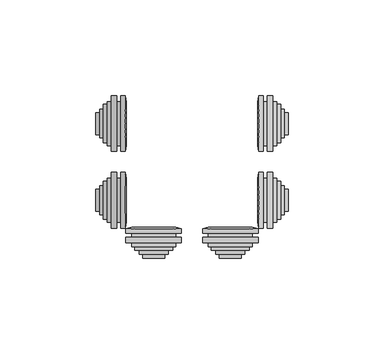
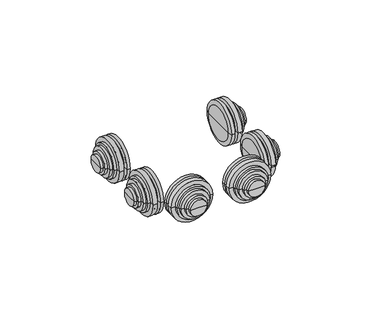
"""IFC4 building model written with IfcOpenShell, lengths in millimetres: cable carrier fitting geometry, КНС_КоробкаОтветвительнаяСКабельнымиВводами_8+2_IP55_DKC : с 8+2 кабельными вводами д.25/20 мм, IP55,100х100х50 мм."""

from ifc_helpers import new_model, si_unit, frame, origin, place, context, project, spatial, polyline, circle_curve, source, transform, mapped, element, save
from ifc_brep_helpers import plane_surface, cylinder_surface, revolved_surface, advanced_brep


def cable_carrier_fitting_1dd96824(model_context):
    return source(origin(), model_context, "Body", "AdvancedBrep", [
        advanced_brep(
        [(-37.2, -31.5, 15.9), (-37.2, -8.5, 15.9), (-37.2, -5.5, 15.9), (-37.2, -34.5, 15.9), (-39.2, -31.5, 15.9), (-39.2, -8.5, 15.9), (-39.2, -34.5, 15.9), (-39.2, -5.5, 15.9), (-42.2, -34.5, 15.9), (-42.2, -5.5, 15.9), (-42.2, -31.5, 15.9), (-42.2, -8.5, 15.9), (-44.2, -31.5, 15.9), (-44.2, -8.5, 15.9), (-44.2, -30.0, 15.9), (-44.2, -10.0, 15.9), (-46.2, -30.0, 15.9), (-46.2, -10.0, 15.9), (-46.2, -27.5, 15.9), (-46.2, -12.5, 15.9), (-48.2, -27.5, 15.9), (-48.2, -12.5, 15.9), (-48.2, -25.75, 15.9), (-48.2, -14.25, 15.9), (-50.2, -25.75, 15.9), (-50.2, -14.25, 15.9), (-50.2, -20.0, 15.9), (-34.2, -31.5, 15.9), (-34.2, -8.5, 15.9), (-34.2, -20.0, 15.9), (-34.9491137, -34.5, 15.9), (-34.9491137, -5.5, 15.9)],
        [
            (0, 1, circle_curve(frame((-37.2, -20.0, 15.9), z_axis=(1.0, 0.0, 0.0), x_axis=(0.0, 1.0000000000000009, 0.0)), 11.5)),
            (1, 2),
            (2, 3, circle_curve(frame((-37.2, -20.0, 15.9), z_axis=(-1.0, 0.0, 0.0), x_axis=(0.0, 1.0000000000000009, 0.0)), 14.5)),
            (3, 0),
            (1, 0, circle_curve(frame((-37.2, -20.0, 15.9), z_axis=(1.0, 0.0, 0.0), x_axis=(0.0, 1.0000000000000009, 0.0)), 11.5)),
            (3, 2, circle_curve(frame((-37.2, -20.0, 15.9), z_axis=(-1.0, 0.0, 0.0), x_axis=(0.0, 1.0000000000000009, 0.0)), 14.5)),
            (4, 5, circle_curve(frame((-39.2, -20.0, 15.9), z_axis=(1.0, 0.0, 0.0), x_axis=(0.0, 1.0000000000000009, 0.0)), 11.5)),
            (5, 1),
            (0, 4),
            (5, 4, circle_curve(frame((-39.2, -20.0, 15.9), z_axis=(1.0, 0.0, 0.0), x_axis=(0.0, 1.0000000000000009, 0.0)), 11.5)),
            (6, 7, circle_curve(frame((-39.2, -20.0, 15.9), z_axis=(1.0, 0.0, 0.0), x_axis=(0.0, 1.0000000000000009, 0.0)), 14.5)),
            (7, 5),
            (4, 6),
            (7, 6, circle_curve(frame((-39.2, -20.0, 15.9), z_axis=(1.0, 0.0, 0.0), x_axis=(0.0, 1.0000000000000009, 0.0)), 14.5)),
            (8, 9, circle_curve(frame((-42.2, -20.0, 15.9), z_axis=(1.0, 0.0, 0.0), x_axis=(0.0, 1.0000000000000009, 0.0)), 14.5)),
            (9, 7),
            (6, 8),
            (9, 8, circle_curve(frame((-42.2, -20.0, 15.9), z_axis=(1.0, 0.0, 0.0), x_axis=(0.0, 1.0000000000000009, 0.0)), 14.5)),
            (10, 11, circle_curve(frame((-42.2, -20.0, 15.9), z_axis=(1.0, 0.0, 0.0), x_axis=(0.0, 1.0000000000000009, 0.0)), 11.5)),
            (11, 9),
            (8, 10),
            (11, 10, circle_curve(frame((-42.2, -20.0, 15.9), z_axis=(1.0, 0.0, 0.0), x_axis=(0.0, 1.0000000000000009, 0.0)), 11.5)),
            (12, 13, circle_curve(frame((-44.2, -20.0, 15.9), z_axis=(1.0, 0.0, 0.0), x_axis=(0.0, 1.0000000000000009, 0.0)), 11.5)),
            (13, 11),
            (10, 12),
            (13, 12, circle_curve(frame((-44.2, -20.0, 15.9), z_axis=(1.0, 0.0, 0.0), x_axis=(0.0, 1.0000000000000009, 0.0)), 11.5)),
            (14, 15, circle_curve(frame((-44.2, -20.0, 15.9), z_axis=(1.0, 0.0, 0.0), x_axis=(0.0, 1.0000000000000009, 0.0)), 10.0)),
            (15, 13),
            (12, 14),
            (15, 14, circle_curve(frame((-44.2, -20.0, 15.9), z_axis=(1.0, 0.0, 0.0), x_axis=(0.0, 1.0000000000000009, 0.0)), 10.0)),
            (16, 17, circle_curve(frame((-46.2, -20.0, 15.9), z_axis=(1.0, 0.0, 0.0), x_axis=(0.0, 1.0000000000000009, 0.0)), 10.0)),
            (17, 15),
            (14, 16),
            (17, 16, circle_curve(frame((-46.2, -20.0, 15.9), z_axis=(1.0, 0.0, 0.0), x_axis=(0.0, 1.0000000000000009, 0.0)), 10.0)),
            (18, 19, circle_curve(frame((-46.2, -20.0, 15.9), z_axis=(1.0, 0.0, 0.0), x_axis=(0.0, 1.0000000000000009, 0.0)), 7.5)),
            (19, 17),
            (16, 18),
            (19, 18, circle_curve(frame((-46.2, -20.0, 15.9), z_axis=(1.0, 0.0, 0.0), x_axis=(0.0, 1.0000000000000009, 0.0)), 7.5)),
            (20, 21, circle_curve(frame((-48.2, -20.0, 15.9), z_axis=(1.0, 0.0, 0.0), x_axis=(0.0, 1.0000000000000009, 0.0)), 7.5)),
            (21, 19),
            (18, 20),
            (21, 20, circle_curve(frame((-48.2, -20.0, 15.9), z_axis=(1.0, 0.0, 0.0), x_axis=(0.0, 1.0000000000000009, 0.0)), 7.5)),
            (22, 23, circle_curve(frame((-48.2, -20.0, 15.9), z_axis=(1.0, 0.0, 0.0), x_axis=(0.0, 1.0000000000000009, 0.0)), 5.75)),
            (23, 21),
            (20, 22),
            (23, 22, circle_curve(frame((-48.2, -20.0, 15.9), z_axis=(1.0, 0.0, 0.0), x_axis=(0.0, 1.0000000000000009, 0.0)), 5.75)),
            (24, 25, circle_curve(frame((-50.2, -20.0, 15.9), z_axis=(1.0, 0.0, 0.0), x_axis=(0.0, 1.0000000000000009, 0.0)), 5.75)),
            (25, 23),
            (22, 24),
            (25, 24, circle_curve(frame((-50.2, -20.0, 15.9), z_axis=(1.0, 0.0, 0.0), x_axis=(0.0, 1.0000000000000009, 0.0)), 5.75)),
            (26, 25),
            (24, 26),
            (27, 28, circle_curve(frame((-34.2, -20.0, 15.9), z_axis=(1.0, 0.0, 0.0), x_axis=(0.0, 1.0000000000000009, 0.0)), 11.5)),
            (28, 29),
            (29, 27),
            (28, 27, circle_curve(frame((-34.2, -20.0, 15.9), z_axis=(1.0, 0.0, 0.0), x_axis=(0.0, 1.0000000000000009, 0.0)), 11.5)),
            (30, 31, circle_curve(frame((-34.9491137, -20.0, 15.9), z_axis=(1.0, 0.0, 0.0), x_axis=(0.0, 1.0000000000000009, 0.0)), 14.5)),
            (31, 28),
            (27, 30),
            (31, 30, circle_curve(frame((-34.9491137, -20.0, 15.9), z_axis=(1.0, 0.0, 0.0), x_axis=(0.0, 1.0000000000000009, 0.0)), 14.5)),
            (2, 31),
            (30, 3),
        ],
        [
            plane_surface(frame((-37.2, -20.0, 15.9), z_axis=(-1.0, 0.0, 0.0), x_axis=(0.0, 1.0, 0.0))),
            cylinder_surface(frame((1475.8, -20.0, 15.9), z_axis=(-1.0000000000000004, 0.0, 0.0), x_axis=(0.0, 1.0000000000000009, 0.0)), 11.5),
            plane_surface(frame((-39.2, -20.0, 15.9), z_axis=(1.0, 0.0, 0.0), x_axis=(0.0, 1.0, 0.0))),
            cylinder_surface(frame((1475.8, -20.0, 15.9), z_axis=(-1.0000000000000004, 0.0, 0.0), x_axis=(0.0, 1.0000000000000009, 0.0)), 14.5),
            plane_surface(frame((-42.2, -20.0, 15.9), z_axis=(-1.0, 0.0, 0.0), x_axis=(0.0, 1.0, 0.0))),
            plane_surface(frame((-44.2, -20.0, 15.9), z_axis=(-1.0, 0.0, 0.0), x_axis=(0.0, 1.0, 0.0))),
            cylinder_surface(frame((1475.8, -20.0, 15.9), z_axis=(-1.0000000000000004, 0.0, 0.0), x_axis=(0.0, 1.0000000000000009, 0.0)), 10.0),
            plane_surface(frame((-46.2, -20.0, 15.9), z_axis=(-1.0, 0.0, 0.0), x_axis=(0.0, 1.0, 0.0))),
            cylinder_surface(frame((1475.8, -20.0, 15.9), z_axis=(-1.0000000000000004, 0.0, 0.0), x_axis=(0.0, 1.0000000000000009, 0.0)), 7.5),
            plane_surface(frame((-48.2, -20.0, 15.9), z_axis=(-1.0, 0.0, 0.0), x_axis=(0.0, 1.0, 0.0))),
            cylinder_surface(frame((1475.8, -20.0, 15.9), z_axis=(-1.0000000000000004, 0.0, 0.0), x_axis=(0.0, 1.0000000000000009, 0.0)), 5.75),
            plane_surface(frame((-50.2, -20.0, 15.9), z_axis=(-1.0, 0.0, 0.0), x_axis=(0.0, 1.0, 0.0))),
            plane_surface(frame((-34.2, -20.0, 15.9), z_axis=(1.0, 0.0, 0.0), x_axis=(0.0, 1.0, 0.0))),
            revolved_surface(polyline([(-34.2, -8.5, 15.9), (-34.9491137, -5.5, 15.9)]), (1475.8, -20.0, 15.9), (-1.0000000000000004, 0.0, 0.0)),
        ],
        [
            (0, [[1, 2, 3, 4]]),
            (0, [[5, -4, 6, -2]]),
            (1, [[7, 8, -1, 9]]),
            (1, [[10, -9, -5, -8]]),
            (2, [[11, 12, -7, 13]]),
            (2, [[14, -13, -10, -12]]),
            (3, [[15, 16, -11, 17]]),
            (3, [[18, -17, -14, -16]]),
            (4, [[19, 20, -15, 21]]),
            (4, [[22, -21, -18, -20]]),
            (1, [[23, 24, -19, 25]]),
            (1, [[26, -25, -22, -24]]),
            (5, [[27, 28, -23, 29]]),
            (5, [[30, -29, -26, -28]]),
            (6, [[31, 32, -27, 33]]),
            (6, [[34, -33, -30, -32]]),
            (7, [[35, 36, -31, 37]]),
            (7, [[38, -37, -34, -36]]),
            (8, [[39, 40, -35, 41]]),
            (8, [[42, -41, -38, -40]]),
            (9, [[43, 44, -39, 45]]),
            (9, [[46, -45, -42, -44]]),
            (10, [[47, 48, -43, 49]]),
            (10, [[50, -49, -46, -48]]),
            (11, [[51, -47, 52]]),
            (11, [[-52, -50, -51]]),
            (12, [[53, 54, 55]]),
            (12, [[56, -55, -54]]),
            (13, [[57, 58, -53, 59]]),
            (13, [[60, -59, -56, -58]]),
            (3, [[-3, 61, -57, 62]]),
            (3, [[-6, -62, -60, -61]]),
        ],
    ),
        advanced_brep(
        [(-37.2, 8.5, 15.9), (-37.2, 31.5, 15.9), (-37.2, 34.5, 15.9), (-37.2, 5.5, 15.9), (-39.2, 8.5, 15.9), (-39.2, 31.5, 15.9), (-39.2, 5.5, 15.9), (-39.2, 34.5, 15.9), (-42.2, 5.5, 15.9), (-42.2, 34.5, 15.9), (-42.2, 8.5, 15.9), (-42.2, 31.5, 15.9), (-44.2, 8.5, 15.9), (-44.2, 31.5, 15.9), (-44.2, 10.0, 15.9), (-44.2, 30.0, 15.9), (-46.2, 10.0, 15.9), (-46.2, 30.0, 15.9), (-46.2, 12.5, 15.9), (-46.2, 27.5, 15.9), (-48.2, 12.5, 15.9), (-48.2, 27.5, 15.9), (-48.2, 14.25, 15.9), (-48.2, 25.75, 15.9), (-50.2, 14.25, 15.9), (-50.2, 25.75, 15.9), (-50.2, 20.0, 15.9), (-34.2, 8.5, 15.9), (-34.2, 31.5, 15.9), (-34.2, 20.0, 15.9), (-34.9491137, 5.5, 15.9), (-34.9491137, 34.5, 15.9)],
        [
            (0, 1, circle_curve(frame((-37.2, 20.0, 15.9), z_axis=(1.0, 0.0, 0.0), x_axis=(0.0, 1.0000000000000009, 0.0)), 11.5)),
            (1, 2),
            (2, 3, circle_curve(frame((-37.2, 20.0, 15.9), z_axis=(-1.0, 0.0, 0.0), x_axis=(0.0, 1.0000000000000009, 0.0)), 14.5)),
            (3, 0),
            (1, 0, circle_curve(frame((-37.2, 20.0, 15.9), z_axis=(1.0, 0.0, 0.0), x_axis=(0.0, 1.0000000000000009, 0.0)), 11.5)),
            (3, 2, circle_curve(frame((-37.2, 20.0, 15.9), z_axis=(-1.0, 0.0, 0.0), x_axis=(0.0, 1.0000000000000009, 0.0)), 14.5)),
            (4, 5, circle_curve(frame((-39.2, 20.0, 15.9), z_axis=(1.0, 0.0, 0.0), x_axis=(0.0, 1.0000000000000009, 0.0)), 11.5)),
            (5, 1),
            (0, 4),
            (5, 4, circle_curve(frame((-39.2, 20.0, 15.9), z_axis=(1.0, 0.0, 0.0), x_axis=(0.0, 1.0000000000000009, 0.0)), 11.5)),
            (6, 7, circle_curve(frame((-39.2, 20.0, 15.9), z_axis=(1.0, 0.0, 0.0), x_axis=(0.0, 1.0000000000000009, 0.0)), 14.5)),
            (7, 5),
            (4, 6),
            (7, 6, circle_curve(frame((-39.2, 20.0, 15.9), z_axis=(1.0, 0.0, 0.0), x_axis=(0.0, 1.0000000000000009, 0.0)), 14.5)),
            (8, 9, circle_curve(frame((-42.2, 20.0, 15.9), z_axis=(1.0, 0.0, 0.0), x_axis=(0.0, 1.0000000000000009, 0.0)), 14.5)),
            (9, 7),
            (6, 8),
            (9, 8, circle_curve(frame((-42.2, 20.0, 15.9), z_axis=(1.0, 0.0, 0.0), x_axis=(0.0, 1.0000000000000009, 0.0)), 14.5)),
            (10, 11, circle_curve(frame((-42.2, 20.0, 15.9), z_axis=(1.0, 0.0, 0.0), x_axis=(0.0, 1.0000000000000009, 0.0)), 11.5)),
            (11, 9),
            (8, 10),
            (11, 10, circle_curve(frame((-42.2, 20.0, 15.9), z_axis=(1.0, 0.0, 0.0), x_axis=(0.0, 1.0000000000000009, 0.0)), 11.5)),
            (12, 13, circle_curve(frame((-44.2, 20.0, 15.9), z_axis=(1.0, 0.0, 0.0), x_axis=(0.0, 1.0000000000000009, 0.0)), 11.5)),
            (13, 11),
            (10, 12),
            (13, 12, circle_curve(frame((-44.2, 20.0, 15.9), z_axis=(1.0, 0.0, 0.0), x_axis=(0.0, 1.0000000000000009, 0.0)), 11.5)),
            (14, 15, circle_curve(frame((-44.2, 20.0, 15.9), z_axis=(1.0, 0.0, 0.0), x_axis=(0.0, 1.0000000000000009, 0.0)), 10.0)),
            (15, 13),
            (12, 14),
            (15, 14, circle_curve(frame((-44.2, 20.0, 15.9), z_axis=(1.0, 0.0, 0.0), x_axis=(0.0, 1.0000000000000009, 0.0)), 10.0)),
            (16, 17, circle_curve(frame((-46.2, 20.0, 15.9), z_axis=(1.0, 0.0, 0.0), x_axis=(0.0, 1.0000000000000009, 0.0)), 10.0)),
            (17, 15),
            (14, 16),
            (17, 16, circle_curve(frame((-46.2, 20.0, 15.9), z_axis=(1.0, 0.0, 0.0), x_axis=(0.0, 1.0000000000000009, 0.0)), 10.0)),
            (18, 19, circle_curve(frame((-46.2, 20.0, 15.9), z_axis=(1.0, 0.0, 0.0), x_axis=(0.0, 1.0000000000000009, 0.0)), 7.5)),
            (19, 17),
            (16, 18),
            (19, 18, circle_curve(frame((-46.2, 20.0, 15.9), z_axis=(1.0, 0.0, 0.0), x_axis=(0.0, 1.0000000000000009, 0.0)), 7.5)),
            (20, 21, circle_curve(frame((-48.2, 20.0, 15.9), z_axis=(1.0, 0.0, 0.0), x_axis=(0.0, 1.0000000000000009, 0.0)), 7.5)),
            (21, 19),
            (18, 20),
            (21, 20, circle_curve(frame((-48.2, 20.0, 15.9), z_axis=(1.0, 0.0, 0.0), x_axis=(0.0, 1.0000000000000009, 0.0)), 7.5)),
            (22, 23, circle_curve(frame((-48.2, 20.0, 15.9), z_axis=(1.0, 0.0, 0.0), x_axis=(0.0, 1.0000000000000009, 0.0)), 5.75)),
            (23, 21),
            (20, 22),
            (23, 22, circle_curve(frame((-48.2, 20.0, 15.9), z_axis=(1.0, 0.0, 0.0), x_axis=(0.0, 1.0000000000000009, 0.0)), 5.75)),
            (24, 25, circle_curve(frame((-50.2, 20.0, 15.9), z_axis=(1.0, 0.0, 0.0), x_axis=(0.0, 1.0000000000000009, 0.0)), 5.75)),
            (25, 23),
            (22, 24),
            (25, 24, circle_curve(frame((-50.2, 20.0, 15.9), z_axis=(1.0, 0.0, 0.0), x_axis=(0.0, 1.0000000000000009, 0.0)), 5.75)),
            (26, 25),
            (24, 26),
            (27, 28, circle_curve(frame((-34.2, 20.0, 15.9), z_axis=(1.0, 0.0, 0.0), x_axis=(0.0, 1.0000000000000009, 0.0)), 11.5)),
            (28, 29),
            (29, 27),
            (28, 27, circle_curve(frame((-34.2, 20.0, 15.9), z_axis=(1.0, 0.0, 0.0), x_axis=(0.0, 1.0000000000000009, 0.0)), 11.5)),
            (30, 31, circle_curve(frame((-34.9491137, 20.0, 15.9), z_axis=(1.0, 0.0, 0.0), x_axis=(0.0, 1.0000000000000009, 0.0)), 14.5)),
            (31, 28),
            (27, 30),
            (31, 30, circle_curve(frame((-34.9491137, 20.0, 15.9), z_axis=(1.0, 0.0, 0.0), x_axis=(0.0, 1.0000000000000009, 0.0)), 14.5)),
            (2, 31),
            (30, 3),
        ],
        [
            plane_surface(frame((-37.2, 20.0, 15.9), z_axis=(-1.0, 0.0, 0.0), x_axis=(0.0, 1.0, 0.0))),
            cylinder_surface(frame((1475.8, 20.0, 15.9), z_axis=(-1.0000000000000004, 0.0, 0.0), x_axis=(0.0, 1.0000000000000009, 0.0)), 11.5),
            plane_surface(frame((-39.2, 20.0, 15.9), z_axis=(1.0, 0.0, 0.0), x_axis=(0.0, 1.0, 0.0))),
            cylinder_surface(frame((1475.8, 20.0, 15.9), z_axis=(-1.0000000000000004, 0.0, 0.0), x_axis=(0.0, 1.0000000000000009, 0.0)), 14.5),
            plane_surface(frame((-42.2, 20.0, 15.9), z_axis=(-1.0, 0.0, 0.0), x_axis=(0.0, 1.0, 0.0))),
            plane_surface(frame((-44.2, 20.0, 15.9), z_axis=(-1.0, 0.0, 0.0), x_axis=(0.0, 1.0, 0.0))),
            cylinder_surface(frame((1475.8, 20.0, 15.9), z_axis=(-1.0000000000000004, 0.0, 0.0), x_axis=(0.0, 1.0000000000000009, 0.0)), 10.0),
            plane_surface(frame((-46.2, 20.0, 15.9), z_axis=(-1.0, 0.0, 0.0), x_axis=(0.0, 1.0, 0.0))),
            cylinder_surface(frame((1475.8, 20.0, 15.9), z_axis=(-1.0000000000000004, 0.0, 0.0), x_axis=(0.0, 1.0000000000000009, 0.0)), 7.5),
            plane_surface(frame((-48.2, 20.0, 15.9), z_axis=(-1.0, 0.0, 0.0), x_axis=(0.0, 1.0, 0.0))),
            cylinder_surface(frame((1475.8, 20.0, 15.9), z_axis=(-1.0000000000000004, 0.0, 0.0), x_axis=(0.0, 1.0000000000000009, 0.0)), 5.75),
            plane_surface(frame((-50.2, 20.0, 15.9), z_axis=(-1.0, 0.0, 0.0), x_axis=(0.0, 1.0, 0.0))),
            plane_surface(frame((-34.2, 20.0, 15.9), z_axis=(1.0, 0.0, 0.0), x_axis=(0.0, 1.0, 0.0))),
            revolved_surface(polyline([(-34.2, 31.5, 15.9), (-34.9491137, 34.5, 15.9)]), (1475.8, 20.0, 15.9), (-1.0000000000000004, 0.0, 0.0)),
        ],
        [
            (0, [[1, 2, 3, 4]]),
            (0, [[5, -4, 6, -2]]),
            (1, [[7, 8, -1, 9]]),
            (1, [[10, -9, -5, -8]]),
            (2, [[11, 12, -7, 13]]),
            (2, [[14, -13, -10, -12]]),
            (3, [[15, 16, -11, 17]]),
            (3, [[18, -17, -14, -16]]),
            (4, [[19, 20, -15, 21]]),
            (4, [[22, -21, -18, -20]]),
            (1, [[23, 24, -19, 25]]),
            (1, [[26, -25, -22, -24]]),
            (5, [[27, 28, -23, 29]]),
            (5, [[30, -29, -26, -28]]),
            (6, [[31, 32, -27, 33]]),
            (6, [[34, -33, -30, -32]]),
            (7, [[35, 36, -31, 37]]),
            (7, [[38, -37, -34, -36]]),
            (8, [[39, 40, -35, 41]]),
            (8, [[42, -41, -38, -40]]),
            (9, [[43, 44, -39, 45]]),
            (9, [[46, -45, -42, -44]]),
            (10, [[47, 48, -43, 49]]),
            (10, [[50, -49, -46, -48]]),
            (11, [[51, -47, 52]]),
            (11, [[-52, -50, -51]]),
            (12, [[53, 54, 55]]),
            (12, [[56, -55, -54]]),
            (13, [[57, 58, -53, 59]]),
            (13, [[60, -59, -56, -58]]),
            (3, [[-3, 61, -57, 62]]),
            (3, [[-6, -62, -60, -61]]),
        ],
    ),
        advanced_brep(
        [(37.2, 31.5, 15.9), (37.2, 8.5, 15.9), (37.2, 5.5, 15.9), (37.2, 34.5, 15.9), (39.2, 31.5, 15.9), (39.2, 8.5, 15.9), (39.2, 34.5, 15.9), (39.2, 5.5, 15.9), (42.2, 34.5, 15.9), (42.2, 5.5, 15.9), (42.2, 31.5, 15.9), (42.2, 8.5, 15.9), (44.2, 31.5, 15.9), (44.2, 8.5, 15.9), (44.2, 30.0, 15.9), (44.2, 10.0, 15.9), (46.2, 30.0, 15.9), (46.2, 10.0, 15.9), (46.2, 27.5, 15.9), (46.2, 12.5, 15.9), (48.2, 27.5, 15.9), (48.2, 12.5, 15.9), (48.2, 25.75, 15.9), (48.2, 14.25, 15.9), (50.2, 25.75, 15.9), (50.2, 14.25, 15.9), (50.2, 20.0, 15.9), (34.2, 31.5, 15.9), (34.2, 8.5, 15.9), (34.2, 20.0, 15.9), (34.9491137, 34.5, 15.9), (34.9491137, 5.5, 15.9)],
        [
            (0, 1, circle_curve(frame((37.2, 20.0, 15.9), z_axis=(-1.0, 0.0, 0.0), x_axis=(0.0, -1.0, 0.0)), 11.5)),
            (1, 2),
            (2, 3, circle_curve(frame((37.2, 20.0, 15.9), z_axis=(1.0, 0.0, 0.0), x_axis=(0.0, -1.0, 0.0)), 14.5)),
            (3, 0),
            (1, 0, circle_curve(frame((37.2, 20.0, 15.9), z_axis=(-1.0, 0.0, 0.0), x_axis=(0.0, -1.0, 0.0)), 11.5)),
            (3, 2, circle_curve(frame((37.2, 20.0, 15.9), z_axis=(1.0, 0.0, 0.0), x_axis=(0.0, -1.0, 0.0)), 14.5)),
            (4, 5, circle_curve(frame((39.2, 20.0, 15.9), z_axis=(-1.0, 0.0, 0.0), x_axis=(0.0, -1.0, 0.0)), 11.5)),
            (5, 1),
            (0, 4),
            (5, 4, circle_curve(frame((39.2, 20.0, 15.9), z_axis=(-1.0, 0.0, 0.0), x_axis=(0.0, -1.0, 0.0)), 11.5)),
            (6, 7, circle_curve(frame((39.2, 20.0, 15.9), z_axis=(-1.0, 0.0, 0.0), x_axis=(0.0, -1.0, 0.0)), 14.5)),
            (7, 5),
            (4, 6),
            (7, 6, circle_curve(frame((39.2, 20.0, 15.9), z_axis=(-1.0, 0.0, 0.0), x_axis=(0.0, -1.0, 0.0)), 14.5)),
            (8, 9, circle_curve(frame((42.2, 20.0, 15.9), z_axis=(-1.0, 0.0, 0.0), x_axis=(0.0, -1.0, 0.0)), 14.5)),
            (9, 7),
            (6, 8),
            (9, 8, circle_curve(frame((42.2, 20.0, 15.9), z_axis=(-1.0, 0.0, 0.0), x_axis=(0.0, -1.0, 0.0)), 14.5)),
            (10, 11, circle_curve(frame((42.2, 20.0, 15.9), z_axis=(-1.0, 0.0, 0.0), x_axis=(0.0, -1.0, 0.0)), 11.5)),
            (11, 9),
            (8, 10),
            (11, 10, circle_curve(frame((42.2, 20.0, 15.9), z_axis=(-1.0, 0.0, 0.0), x_axis=(0.0, -1.0, 0.0)), 11.5)),
            (12, 13, circle_curve(frame((44.2, 20.0, 15.9), z_axis=(-1.0, 0.0, 0.0), x_axis=(0.0, -1.0, 0.0)), 11.5)),
            (13, 11),
            (10, 12),
            (13, 12, circle_curve(frame((44.2, 20.0, 15.9), z_axis=(-1.0, 0.0, 0.0), x_axis=(0.0, -1.0, 0.0)), 11.5)),
            (14, 15, circle_curve(frame((44.2, 20.0, 15.9), z_axis=(-1.0, 0.0, 0.0), x_axis=(0.0, -1.0, 0.0)), 10.0)),
            (15, 13),
            (12, 14),
            (15, 14, circle_curve(frame((44.2, 20.0, 15.9), z_axis=(-1.0, 0.0, 0.0), x_axis=(0.0, -1.0, 0.0)), 10.0)),
            (16, 17, circle_curve(frame((46.2, 20.0, 15.9), z_axis=(-1.0, 0.0, 0.0), x_axis=(0.0, -1.0, 0.0)), 10.0)),
            (17, 15),
            (14, 16),
            (17, 16, circle_curve(frame((46.2, 20.0, 15.9), z_axis=(-1.0, 0.0, 0.0), x_axis=(0.0, -1.0, 0.0)), 10.0)),
            (18, 19, circle_curve(frame((46.2, 20.0, 15.9), z_axis=(-1.0, 0.0, 0.0), x_axis=(0.0, -1.0, 0.0)), 7.5)),
            (19, 17),
            (16, 18),
            (19, 18, circle_curve(frame((46.2, 20.0, 15.9), z_axis=(-1.0, 0.0, 0.0), x_axis=(0.0, -1.0, 0.0)), 7.5)),
            (20, 21, circle_curve(frame((48.2, 20.0, 15.9), z_axis=(-1.0, 0.0, 0.0), x_axis=(0.0, -1.0, 0.0)), 7.5)),
            (21, 19),
            (18, 20),
            (21, 20, circle_curve(frame((48.2, 20.0, 15.9), z_axis=(-1.0, 0.0, 0.0), x_axis=(0.0, -1.0, 0.0)), 7.5)),
            (22, 23, circle_curve(frame((48.2, 20.0, 15.9), z_axis=(-1.0, 0.0, 0.0), x_axis=(0.0, -1.0, 0.0)), 5.75)),
            (23, 21),
            (20, 22),
            (23, 22, circle_curve(frame((48.2, 20.0, 15.9), z_axis=(-1.0, 0.0, 0.0), x_axis=(0.0, -1.0, 0.0)), 5.75)),
            (24, 25, circle_curve(frame((50.2, 20.0, 15.9), z_axis=(-1.0, 0.0, 0.0), x_axis=(0.0, -1.0, 0.0)), 5.75)),
            (25, 23),
            (22, 24),
            (25, 24, circle_curve(frame((50.2, 20.0, 15.9), z_axis=(-1.0, 0.0, 0.0), x_axis=(0.0, -1.0, 0.0)), 5.75)),
            (26, 25),
            (24, 26),
            (27, 28, circle_curve(frame((34.2, 20.0, 15.9), z_axis=(-1.0, 0.0, 0.0), x_axis=(0.0, -1.0, 0.0)), 11.5)),
            (28, 29),
            (29, 27),
            (28, 27, circle_curve(frame((34.2, 20.0, 15.9), z_axis=(-1.0, 0.0, 0.0), x_axis=(0.0, -1.0, 0.0)), 11.5)),
            (30, 31, circle_curve(frame((34.9491137, 20.0, 15.9), z_axis=(-1.0, 0.0, 0.0), x_axis=(0.0, -1.0, 0.0)), 14.5)),
            (31, 28),
            (27, 30),
            (31, 30, circle_curve(frame((34.9491137, 20.0, 15.9), z_axis=(-1.0, 0.0, 0.0), x_axis=(0.0, -1.0, 0.0)), 14.5)),
            (2, 31),
            (30, 3),
        ],
        [
            plane_surface(frame((37.2, 20.0, 15.9), z_axis=(1.0, 0.0, 0.0), x_axis=(0.0, -1.0, 0.0))),
            cylinder_surface(frame((-1475.8, 20.0, 15.9), z_axis=(1.0, 0.0, 0.0), x_axis=(0.0, -1.0, 0.0)), 11.5),
            plane_surface(frame((39.2, 20.0, 15.9), z_axis=(-1.0, 0.0, 0.0), x_axis=(0.0, -1.0, 0.0))),
            cylinder_surface(frame((-1475.8, 20.0, 15.9), z_axis=(1.0, 0.0, 0.0), x_axis=(0.0, -1.0, 0.0)), 14.5),
            plane_surface(frame((42.2, 20.0, 15.9), z_axis=(1.0, 0.0, 0.0), x_axis=(0.0, -1.0, 0.0))),
            plane_surface(frame((44.2, 20.0, 15.9), z_axis=(1.0, 0.0, 0.0), x_axis=(0.0, -1.0, 0.0))),
            cylinder_surface(frame((-1475.8, 20.0, 15.9), z_axis=(1.0, 0.0, 0.0), x_axis=(0.0, -1.0, 0.0)), 10.0),
            plane_surface(frame((46.2, 20.0, 15.9), z_axis=(1.0, 0.0, 0.0), x_axis=(0.0, -1.0, 0.0))),
            cylinder_surface(frame((-1475.8, 20.0, 15.9), z_axis=(1.0, 0.0, 0.0), x_axis=(0.0, -1.0, 0.0)), 7.5),
            plane_surface(frame((48.2, 20.0, 15.9), z_axis=(1.0, 0.0, 0.0), x_axis=(0.0, -1.0, 0.0))),
            cylinder_surface(frame((-1475.8, 20.0, 15.9), z_axis=(1.0, 0.0, 0.0), x_axis=(0.0, -1.0, 0.0)), 5.75),
            plane_surface(frame((50.2, 20.0, 15.9), z_axis=(1.0, 0.0, 0.0), x_axis=(0.0, -1.0, 0.0))),
            plane_surface(frame((34.2, 20.0, 15.9), z_axis=(-1.0, 0.0, 0.0), x_axis=(0.0, -1.0, 0.0))),
            revolved_surface(polyline([(34.2, 8.5, 15.9), (34.9491137, 5.5, 15.9)]), (-1475.8, 20.0, 15.9), (1.0, 0.0, 0.0)),
        ],
        [
            (0, [[1, 2, 3, 4]]),
            (0, [[5, -4, 6, -2]]),
            (1, [[7, 8, -1, 9]]),
            (1, [[10, -9, -5, -8]]),
            (2, [[11, 12, -7, 13]]),
            (2, [[14, -13, -10, -12]]),
            (3, [[15, 16, -11, 17]]),
            (3, [[18, -17, -14, -16]]),
            (4, [[19, 20, -15, 21]]),
            (4, [[22, -21, -18, -20]]),
            (1, [[23, 24, -19, 25]]),
            (1, [[26, -25, -22, -24]]),
            (5, [[27, 28, -23, 29]]),
            (5, [[30, -29, -26, -28]]),
            (6, [[31, 32, -27, 33]]),
            (6, [[34, -33, -30, -32]]),
            (7, [[35, 36, -31, 37]]),
            (7, [[38, -37, -34, -36]]),
            (8, [[39, 40, -35, 41]]),
            (8, [[42, -41, -38, -40]]),
            (9, [[43, 44, -39, 45]]),
            (9, [[46, -45, -42, -44]]),
            (10, [[47, 48, -43, 49]]),
            (10, [[50, -49, -46, -48]]),
            (11, [[51, -47, 52]]),
            (11, [[-52, -50, -51]]),
            (12, [[53, 54, 55]]),
            (12, [[56, -55, -54]]),
            (13, [[57, 58, -53, 59]]),
            (13, [[60, -59, -56, -58]]),
            (3, [[-3, 61, -57, 62]]),
            (3, [[-6, -62, -60, -61]]),
        ],
    ),
        advanced_brep(
        [(37.2, -8.5, 15.9), (37.2, -31.5, 15.9), (37.2, -34.5, 15.9), (37.2, -5.5, 15.9), (39.2, -8.5, 15.9), (39.2, -31.5, 15.9), (39.2, -5.5, 15.9), (39.2, -34.5, 15.9), (42.2, -5.5, 15.9), (42.2, -34.5, 15.9), (42.2, -8.5, 15.9), (42.2, -31.5, 15.9), (44.2, -8.5, 15.9), (44.2, -31.5, 15.9), (44.2, -10.0, 15.9), (44.2, -30.0, 15.9), (46.2, -10.0, 15.9), (46.2, -30.0, 15.9), (46.2, -12.5, 15.9), (46.2, -27.5, 15.9), (48.2, -12.5, 15.9), (48.2, -27.5, 15.9), (48.2, -14.25, 15.9), (48.2, -25.75, 15.9), (50.2, -14.25, 15.9), (50.2, -25.75, 15.9), (50.2, -20.0, 15.9), (34.2, -8.5, 15.9), (34.2, -31.5, 15.9), (34.2, -20.0, 15.9), (34.9491137, -5.5, 15.9), (34.9491137, -34.5, 15.9)],
        [
            (0, 1, circle_curve(frame((37.2, -20.0, 15.9), z_axis=(-1.0, 0.0, 0.0), x_axis=(0.0, -1.0000000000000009, 0.0)), 11.5)),
            (1, 2),
            (2, 3, circle_curve(frame((37.2, -20.0, 15.9), z_axis=(1.0, 0.0, 0.0), x_axis=(0.0, -1.0000000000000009, 0.0)), 14.5)),
            (3, 0),
            (1, 0, circle_curve(frame((37.2, -20.0, 15.9), z_axis=(-1.0, 0.0, 0.0), x_axis=(0.0, -1.0000000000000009, 0.0)), 11.5)),
            (3, 2, circle_curve(frame((37.2, -20.0, 15.9), z_axis=(1.0, 0.0, 0.0), x_axis=(0.0, -1.0000000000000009, 0.0)), 14.5)),
            (4, 5, circle_curve(frame((39.2, -20.0, 15.9), z_axis=(-1.0, 0.0, 0.0), x_axis=(0.0, -1.0000000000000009, 0.0)), 11.5)),
            (5, 1),
            (0, 4),
            (5, 4, circle_curve(frame((39.2, -20.0, 15.9), z_axis=(-1.0, 0.0, 0.0), x_axis=(0.0, -1.0000000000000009, 0.0)), 11.5)),
            (6, 7, circle_curve(frame((39.2, -20.0, 15.9), z_axis=(-1.0, 0.0, 0.0), x_axis=(0.0, -1.0000000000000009, 0.0)), 14.5)),
            (7, 5),
            (4, 6),
            (7, 6, circle_curve(frame((39.2, -20.0, 15.9), z_axis=(-1.0, 0.0, 0.0), x_axis=(0.0, -1.0000000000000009, 0.0)), 14.5)),
            (8, 9, circle_curve(frame((42.2, -20.0, 15.9), z_axis=(-1.0, 0.0, 0.0), x_axis=(0.0, -1.0000000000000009, 0.0)), 14.5)),
            (9, 7),
            (6, 8),
            (9, 8, circle_curve(frame((42.2, -20.0, 15.9), z_axis=(-1.0, 0.0, 0.0), x_axis=(0.0, -1.0000000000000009, 0.0)), 14.5)),
            (10, 11, circle_curve(frame((42.2, -20.0, 15.9), z_axis=(-1.0, 0.0, 0.0), x_axis=(0.0, -1.0000000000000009, 0.0)), 11.5)),
            (11, 9),
            (8, 10),
            (11, 10, circle_curve(frame((42.2, -20.0, 15.9), z_axis=(-1.0, 0.0, 0.0), x_axis=(0.0, -1.0000000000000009, 0.0)), 11.5)),
            (12, 13, circle_curve(frame((44.2, -20.0, 15.9), z_axis=(-1.0, 0.0, 0.0), x_axis=(0.0, -1.0000000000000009, 0.0)), 11.5)),
            (13, 11),
            (10, 12),
            (13, 12, circle_curve(frame((44.2, -20.0, 15.9), z_axis=(-1.0, 0.0, 0.0), x_axis=(0.0, -1.0000000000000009, 0.0)), 11.5)),
            (14, 15, circle_curve(frame((44.2, -20.0, 15.9), z_axis=(-1.0, 0.0, 0.0), x_axis=(0.0, -1.0000000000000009, 0.0)), 10.0)),
            (15, 13),
            (12, 14),
            (15, 14, circle_curve(frame((44.2, -20.0, 15.9), z_axis=(-1.0, 0.0, 0.0), x_axis=(0.0, -1.0000000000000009, 0.0)), 10.0)),
            (16, 17, circle_curve(frame((46.2, -20.0, 15.9), z_axis=(-1.0, 0.0, 0.0), x_axis=(0.0, -1.0000000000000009, 0.0)), 10.0)),
            (17, 15),
            (14, 16),
            (17, 16, circle_curve(frame((46.2, -20.0, 15.9), z_axis=(-1.0, 0.0, 0.0), x_axis=(0.0, -1.0000000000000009, 0.0)), 10.0)),
            (18, 19, circle_curve(frame((46.2, -20.0, 15.9), z_axis=(-1.0, 0.0, 0.0), x_axis=(0.0, -1.0000000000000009, 0.0)), 7.5)),
            (19, 17),
            (16, 18),
            (19, 18, circle_curve(frame((46.2, -20.0, 15.9), z_axis=(-1.0, 0.0, 0.0), x_axis=(0.0, -1.0000000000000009, 0.0)), 7.5)),
            (20, 21, circle_curve(frame((48.2, -20.0, 15.9), z_axis=(-1.0, 0.0, 0.0), x_axis=(0.0, -1.0000000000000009, 0.0)), 7.5)),
            (21, 19),
            (18, 20),
            (21, 20, circle_curve(frame((48.2, -20.0, 15.9), z_axis=(-1.0, 0.0, 0.0), x_axis=(0.0, -1.0000000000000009, 0.0)), 7.5)),
            (22, 23, circle_curve(frame((48.2, -20.0, 15.9), z_axis=(-1.0, 0.0, 0.0), x_axis=(0.0, -1.0000000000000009, 0.0)), 5.75)),
            (23, 21),
            (20, 22),
            (23, 22, circle_curve(frame((48.2, -20.0, 15.9), z_axis=(-1.0, 0.0, 0.0), x_axis=(0.0, -1.0000000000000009, 0.0)), 5.75)),
            (24, 25, circle_curve(frame((50.2, -20.0, 15.9), z_axis=(-1.0, 0.0, 0.0), x_axis=(0.0, -1.0000000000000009, 0.0)), 5.75)),
            (25, 23),
            (22, 24),
            (25, 24, circle_curve(frame((50.2, -20.0, 15.9), z_axis=(-1.0, 0.0, 0.0), x_axis=(0.0, -1.0000000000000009, 0.0)), 5.75)),
            (26, 25),
            (24, 26),
            (27, 28, circle_curve(frame((34.2, -20.0, 15.9), z_axis=(-1.0, 0.0, 0.0), x_axis=(0.0, -1.0000000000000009, 0.0)), 11.5)),
            (28, 29),
            (29, 27),
            (28, 27, circle_curve(frame((34.2, -20.0, 15.9), z_axis=(-1.0, 0.0, 0.0), x_axis=(0.0, -1.0000000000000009, 0.0)), 11.5)),
            (30, 31, circle_curve(frame((34.9491137, -20.0, 15.9), z_axis=(-1.0, 0.0, 0.0), x_axis=(0.0, -1.0000000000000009, 0.0)), 14.5)),
            (31, 28),
            (27, 30),
            (31, 30, circle_curve(frame((34.9491137, -20.0, 15.9), z_axis=(-1.0, 0.0, 0.0), x_axis=(0.0, -1.0000000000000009, 0.0)), 14.5)),
            (2, 31),
            (30, 3),
        ],
        [
            plane_surface(frame((37.2, -20.0, 15.9), z_axis=(1.0, 0.0, 0.0), x_axis=(0.0, -1.0, 0.0))),
            cylinder_surface(frame((-1475.8, -20.0, 15.9), z_axis=(1.0000000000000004, 0.0, 0.0), x_axis=(0.0, -1.0000000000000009, 0.0)), 11.5),
            plane_surface(frame((39.2, -20.0, 15.9), z_axis=(-1.0, 0.0, 0.0), x_axis=(0.0, -1.0, 0.0))),
            cylinder_surface(frame((-1475.8, -20.0, 15.9), z_axis=(1.0000000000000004, 0.0, 0.0), x_axis=(0.0, -1.0000000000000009, 0.0)), 14.5),
            plane_surface(frame((42.2, -20.0, 15.9), z_axis=(1.0, 0.0, 0.0), x_axis=(0.0, -1.0, 0.0))),
            plane_surface(frame((44.2, -20.0, 15.9), z_axis=(1.0, 0.0, 0.0), x_axis=(0.0, -1.0, 0.0))),
            cylinder_surface(frame((-1475.8, -20.0, 15.9), z_axis=(1.0000000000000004, 0.0, 0.0), x_axis=(0.0, -1.0000000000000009, 0.0)), 10.0),
            plane_surface(frame((46.2, -20.0, 15.9), z_axis=(1.0, 0.0, 0.0), x_axis=(0.0, -1.0, 0.0))),
            cylinder_surface(frame((-1475.8, -20.0, 15.9), z_axis=(1.0000000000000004, 0.0, 0.0), x_axis=(0.0, -1.0000000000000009, 0.0)), 7.5),
            plane_surface(frame((48.2, -20.0, 15.9), z_axis=(1.0, 0.0, 0.0), x_axis=(0.0, -1.0, 0.0))),
            cylinder_surface(frame((-1475.8, -20.0, 15.9), z_axis=(1.0000000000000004, 0.0, 0.0), x_axis=(0.0, -1.0000000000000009, 0.0)), 5.75),
            plane_surface(frame((50.2, -20.0, 15.9), z_axis=(1.0, 0.0, 0.0), x_axis=(0.0, -1.0, 0.0))),
            plane_surface(frame((34.2, -20.0, 15.9), z_axis=(-1.0, 0.0, 0.0), x_axis=(0.0, -1.0, 0.0))),
            revolved_surface(polyline([(34.2, -31.5, 15.9), (34.9491137, -34.5, 15.9)]), (-1475.8, -20.0, 15.9), (1.0000000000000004, 0.0, 0.0)),
        ],
        [
            (0, [[1, 2, 3, 4]]),
            (0, [[5, -4, 6, -2]]),
            (1, [[7, 8, -1, 9]]),
            (1, [[10, -9, -5, -8]]),
            (2, [[11, 12, -7, 13]]),
            (2, [[14, -13, -10, -12]]),
            (3, [[15, 16, -11, 17]]),
            (3, [[18, -17, -14, -16]]),
            (4, [[19, 20, -15, 21]]),
            (4, [[22, -21, -18, -20]]),
            (1, [[23, 24, -19, 25]]),
            (1, [[26, -25, -22, -24]]),
            (5, [[27, 28, -23, 29]]),
            (5, [[30, -29, -26, -28]]),
            (6, [[31, 32, -27, 33]]),
            (6, [[34, -33, -30, -32]]),
            (7, [[35, 36, -31, 37]]),
            (7, [[38, -37, -34, -36]]),
            (8, [[39, 40, -35, 41]]),
            (8, [[42, -41, -38, -40]]),
            (9, [[43, 44, -39, 45]]),
            (9, [[46, -45, -42, -44]]),
            (10, [[47, 48, -43, 49]]),
            (10, [[50, -49, -46, -48]]),
            (11, [[51, -47, 52]]),
            (11, [[-52, -50, -51]]),
            (12, [[53, 54, 55]]),
            (12, [[56, -55, -54]]),
            (13, [[57, 58, -53, 59]]),
            (13, [[60, -59, -56, -58]]),
            (3, [[-3, 61, -57, 62]]),
            (3, [[-6, -62, -60, -61]]),
        ],
    ),
        advanced_brep(
        [(31.5, -37.2, 15.9), (8.5, -37.2, 15.9), (5.5, -37.2, 15.9), (34.5, -37.2, 15.9), (31.5, -39.2, 15.9), (8.5, -39.2, 15.9), (34.5, -39.2, 15.9), (5.5, -39.2, 15.9), (34.5, -42.2, 15.9), (5.5, -42.2, 15.9), (31.5, -42.2, 15.9), (8.5, -42.2, 15.9), (31.5, -44.2, 15.9), (8.5, -44.2, 15.9), (30.0, -44.2, 15.9), (10.0, -44.2, 15.9), (30.0, -46.2, 15.9), (10.0, -46.2, 15.9), (27.5, -46.2, 15.9), (12.5, -46.2, 15.9), (27.5, -48.2, 15.9), (12.5, -48.2, 15.9), (25.75, -48.2, 15.9), (14.25, -48.2, 15.9), (25.75, -50.2, 15.9), (14.25, -50.2, 15.9), (20.0, -50.2, 15.9), (31.5, -34.2, 15.9), (8.5, -34.2, 15.9), (20.0, -34.2, 15.9), (34.5, -34.9491137, 15.9), (5.5, -34.9491137, 15.9)],
        [
            (0, 1, circle_curve(frame((20.0, -37.2, 15.9), z_axis=(0.0, 1.0, 0.0), x_axis=(-1.0000000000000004, 0.0, 0.0)), 11.5)),
            (1, 2),
            (2, 3, circle_curve(frame((20.0, -37.2, 15.9), z_axis=(0.0, -1.0, 0.0), x_axis=(-1.0000000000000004, 0.0, 0.0)), 14.5)),
            (3, 0),
            (1, 0, circle_curve(frame((20.0, -37.2, 15.9), z_axis=(0.0, 1.0, 0.0), x_axis=(-1.0000000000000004, 0.0, 0.0)), 11.5)),
            (3, 2, circle_curve(frame((20.0, -37.2, 15.9), z_axis=(0.0, -1.0, 0.0), x_axis=(-1.0000000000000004, 0.0, 0.0)), 14.5)),
            (4, 5, circle_curve(frame((20.0, -39.2, 15.9), z_axis=(0.0, 1.0, 0.0), x_axis=(-1.0000000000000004, 0.0, 0.0)), 11.5)),
            (5, 1),
            (0, 4),
            (5, 4, circle_curve(frame((20.0, -39.2, 15.9), z_axis=(0.0, 1.0, 0.0), x_axis=(-1.0000000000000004, 0.0, 0.0)), 11.5)),
            (6, 7, circle_curve(frame((20.0, -39.2, 15.9), z_axis=(0.0, 1.0, 0.0), x_axis=(-1.0000000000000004, 0.0, 0.0)), 14.5)),
            (7, 5),
            (4, 6),
            (7, 6, circle_curve(frame((20.0, -39.2, 15.9), z_axis=(0.0, 1.0, 0.0), x_axis=(-1.0000000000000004, 0.0, 0.0)), 14.5)),
            (8, 9, circle_curve(frame((20.0, -42.2, 15.9), z_axis=(0.0, 1.0, 0.0), x_axis=(-1.0000000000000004, 0.0, 0.0)), 14.5)),
            (9, 7),
            (6, 8),
            (9, 8, circle_curve(frame((20.0, -42.2, 15.9), z_axis=(0.0, 1.0, 0.0), x_axis=(-1.0000000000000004, 0.0, 0.0)), 14.5)),
            (10, 11, circle_curve(frame((20.0, -42.2, 15.9), z_axis=(0.0, 1.0, 0.0), x_axis=(-1.0000000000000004, 0.0, 0.0)), 11.5)),
            (11, 9),
            (8, 10),
            (11, 10, circle_curve(frame((20.0, -42.2, 15.9), z_axis=(0.0, 1.0, 0.0), x_axis=(-1.0000000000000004, 0.0, 0.0)), 11.5)),
            (12, 13, circle_curve(frame((20.0, -44.2, 15.9), z_axis=(0.0, 1.0, 0.0), x_axis=(-1.0000000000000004, 0.0, 0.0)), 11.5)),
            (13, 11),
            (10, 12),
            (13, 12, circle_curve(frame((20.0, -44.2, 15.9), z_axis=(0.0, 1.0, 0.0), x_axis=(-1.0000000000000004, 0.0, 0.0)), 11.5)),
            (14, 15, circle_curve(frame((20.0, -44.2, 15.9), z_axis=(0.0, 1.0, 0.0), x_axis=(-1.0000000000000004, 0.0, 0.0)), 10.0)),
            (15, 13),
            (12, 14),
            (15, 14, circle_curve(frame((20.0, -44.2, 15.9), z_axis=(0.0, 1.0, 0.0), x_axis=(-1.0000000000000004, 0.0, 0.0)), 10.0)),
            (16, 17, circle_curve(frame((20.0, -46.2, 15.9), z_axis=(0.0, 1.0, 0.0), x_axis=(-1.0000000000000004, 0.0, 0.0)), 10.0)),
            (17, 15),
            (14, 16),
            (17, 16, circle_curve(frame((20.0, -46.2, 15.9), z_axis=(0.0, 1.0, 0.0), x_axis=(-1.0000000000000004, 0.0, 0.0)), 10.0)),
            (18, 19, circle_curve(frame((20.0, -46.2, 15.9), z_axis=(0.0, 1.0, 0.0), x_axis=(-1.0000000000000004, 0.0, 0.0)), 7.5)),
            (19, 17),
            (16, 18),
            (19, 18, circle_curve(frame((20.0, -46.2, 15.9), z_axis=(0.0, 1.0, 0.0), x_axis=(-1.0000000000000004, 0.0, 0.0)), 7.5)),
            (20, 21, circle_curve(frame((20.0, -48.2, 15.9), z_axis=(0.0, 1.0, 0.0), x_axis=(-1.0000000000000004, 0.0, 0.0)), 7.5)),
            (21, 19),
            (18, 20),
            (21, 20, circle_curve(frame((20.0, -48.2, 15.9), z_axis=(0.0, 1.0, 0.0), x_axis=(-1.0000000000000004, 0.0, 0.0)), 7.5)),
            (22, 23, circle_curve(frame((20.0, -48.2, 15.9), z_axis=(0.0, 1.0, 0.0), x_axis=(-1.0000000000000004, 0.0, 0.0)), 5.75)),
            (23, 21),
            (20, 22),
            (23, 22, circle_curve(frame((20.0, -48.2, 15.9), z_axis=(0.0, 1.0, 0.0), x_axis=(-1.0000000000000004, 0.0, 0.0)), 5.75)),
            (24, 25, circle_curve(frame((20.0, -50.2, 15.9), z_axis=(0.0, 1.0, 0.0), x_axis=(-1.0000000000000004, 0.0, 0.0)), 5.75)),
            (25, 23),
            (22, 24),
            (25, 24, circle_curve(frame((20.0, -50.2, 15.9), z_axis=(0.0, 1.0, 0.0), x_axis=(-1.0000000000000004, 0.0, 0.0)), 5.75)),
            (26, 25),
            (24, 26),
            (27, 28, circle_curve(frame((20.0, -34.2, 15.9), z_axis=(0.0, 1.0, 0.0), x_axis=(-1.0000000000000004, 0.0, 0.0)), 11.5)),
            (28, 29),
            (29, 27),
            (28, 27, circle_curve(frame((20.0, -34.2, 15.9), z_axis=(0.0, 1.0, 0.0), x_axis=(-1.0000000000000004, 0.0, 0.0)), 11.5)),
            (30, 31, circle_curve(frame((20.0, -34.9491137, 15.9), z_axis=(0.0, 1.0, 0.0), x_axis=(-1.0000000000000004, 0.0, 0.0)), 14.5)),
            (31, 28),
            (27, 30),
            (31, 30, circle_curve(frame((20.0, -34.9491137, 15.9), z_axis=(0.0, 1.0, 0.0), x_axis=(-1.0000000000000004, 0.0, 0.0)), 14.5)),
            (2, 31),
            (30, 3),
        ],
        [
            plane_surface(frame((20.0, -37.2, 15.9), z_axis=(0.0, -1.0, 0.0), x_axis=(-1.0, 0.0, 0.0))),
            cylinder_surface(frame((20.0, 1475.8, 15.9), z_axis=(0.0, -1.0000000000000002, 0.0), x_axis=(-1.0000000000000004, 0.0, 0.0)), 11.5),
            plane_surface(frame((20.0, -39.2, 15.9), z_axis=(0.0, 1.0, 0.0), x_axis=(-1.0, 0.0, 0.0))),
            cylinder_surface(frame((20.0, 1475.8, 15.9), z_axis=(0.0, -1.0000000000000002, 0.0), x_axis=(-1.0000000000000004, 0.0, 0.0)), 14.5),
            plane_surface(frame((20.0, -42.2, 15.9), z_axis=(0.0, -1.0, 0.0), x_axis=(-1.0, 0.0, 0.0))),
            plane_surface(frame((20.0, -44.2, 15.9), z_axis=(0.0, -1.0, 0.0), x_axis=(-1.0, 0.0, 0.0))),
            cylinder_surface(frame((20.0, 1475.8, 15.9), z_axis=(0.0, -1.0000000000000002, 0.0), x_axis=(-1.0000000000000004, 0.0, 0.0)), 10.0),
            plane_surface(frame((20.0, -46.2, 15.9), z_axis=(0.0, -1.0, 0.0), x_axis=(-1.0, 0.0, 0.0))),
            cylinder_surface(frame((20.0, 1475.8, 15.9), z_axis=(0.0, -1.0000000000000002, 0.0), x_axis=(-1.0000000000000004, 0.0, 0.0)), 7.5),
            plane_surface(frame((20.0, -48.2, 15.9), z_axis=(0.0, -1.0, 0.0), x_axis=(-1.0, 0.0, 0.0))),
            cylinder_surface(frame((20.0, 1475.8, 15.9), z_axis=(0.0, -1.0000000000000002, 0.0), x_axis=(-1.0000000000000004, 0.0, 0.0)), 5.75),
            plane_surface(frame((20.0, -50.2, 15.9), z_axis=(0.0, -1.0, 0.0), x_axis=(-1.0, 0.0, 0.0))),
            plane_surface(frame((20.0, -34.2, 15.9), z_axis=(0.0, 1.0, 0.0), x_axis=(-1.0, 0.0, 0.0))),
            revolved_surface(polyline([(8.5, -34.2, 15.9), (5.5, -34.9491137, 15.9)]), (20.0, 1475.8, 15.9), (0.0, -1.0000000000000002, 0.0)),
        ],
        [
            (0, [[1, 2, 3, 4]]),
            (0, [[5, -4, 6, -2]]),
            (1, [[7, 8, -1, 9]]),
            (1, [[10, -9, -5, -8]]),
            (2, [[11, 12, -7, 13]]),
            (2, [[14, -13, -10, -12]]),
            (3, [[15, 16, -11, 17]]),
            (3, [[18, -17, -14, -16]]),
            (4, [[19, 20, -15, 21]]),
            (4, [[22, -21, -18, -20]]),
            (1, [[23, 24, -19, 25]]),
            (1, [[26, -25, -22, -24]]),
            (5, [[27, 28, -23, 29]]),
            (5, [[30, -29, -26, -28]]),
            (6, [[31, 32, -27, 33]]),
            (6, [[34, -33, -30, -32]]),
            (7, [[35, 36, -31, 37]]),
            (7, [[38, -37, -34, -36]]),
            (8, [[39, 40, -35, 41]]),
            (8, [[42, -41, -38, -40]]),
            (9, [[43, 44, -39, 45]]),
            (9, [[46, -45, -42, -44]]),
            (10, [[47, 48, -43, 49]]),
            (10, [[50, -49, -46, -48]]),
            (11, [[51, -47, 52]]),
            (11, [[-52, -50, -51]]),
            (12, [[53, 54, 55]]),
            (12, [[56, -55, -54]]),
            (13, [[57, 58, -53, 59]]),
            (13, [[60, -59, -56, -58]]),
            (3, [[-3, 61, -57, 62]]),
            (3, [[-6, -62, -60, -61]]),
        ],
    ),
        advanced_brep(
        [(-8.5, -37.2, 15.9), (-31.5, -37.2, 15.9), (-34.5, -37.2, 15.9), (-5.5, -37.2, 15.9), (-8.5, -39.2, 15.9), (-31.5, -39.2, 15.9), (-5.5, -39.2, 15.9), (-34.5, -39.2, 15.9), (-5.5, -42.2, 15.9), (-34.5, -42.2, 15.9), (-8.5, -42.2, 15.9), (-31.5, -42.2, 15.9), (-8.5, -44.2, 15.9), (-31.5, -44.2, 15.9), (-10.0, -44.2, 15.9), (-30.0, -44.2, 15.9), (-10.0, -46.2, 15.9), (-30.0, -46.2, 15.9), (-12.5, -46.2, 15.9), (-27.5, -46.2, 15.9), (-12.5, -48.2, 15.9), (-27.5, -48.2, 15.9), (-14.25, -48.2, 15.9), (-25.75, -48.2, 15.9), (-14.25, -50.2, 15.9), (-25.75, -50.2, 15.9), (-20.0, -50.2, 15.9), (-8.5, -34.2, 15.9), (-31.5, -34.2, 15.9), (-20.0, -34.2, 15.9), (-5.5, -34.9491137, 15.9), (-34.5, -34.9491137, 15.9)],
        [
            (0, 1, circle_curve(frame((-20.0, -37.2, 15.9), z_axis=(0.0, 1.0, 0.0), x_axis=(-1.0000000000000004, 0.0, 0.0)), 11.5)),
            (1, 2),
            (2, 3, circle_curve(frame((-20.0, -37.2, 15.9), z_axis=(0.0, -1.0, 0.0), x_axis=(-1.0000000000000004, 0.0, 0.0)), 14.5)),
            (3, 0),
            (1, 0, circle_curve(frame((-20.0, -37.2, 15.9), z_axis=(0.0, 1.0, 0.0), x_axis=(-1.0000000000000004, 0.0, 0.0)), 11.5)),
            (3, 2, circle_curve(frame((-20.0, -37.2, 15.9), z_axis=(0.0, -1.0, 0.0), x_axis=(-1.0000000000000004, 0.0, 0.0)), 14.5)),
            (4, 5, circle_curve(frame((-20.0, -39.2, 15.9), z_axis=(0.0, 1.0, 0.0), x_axis=(-1.0000000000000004, 0.0, 0.0)), 11.5)),
            (5, 1),
            (0, 4),
            (5, 4, circle_curve(frame((-20.0, -39.2, 15.9), z_axis=(0.0, 1.0, 0.0), x_axis=(-1.0000000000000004, 0.0, 0.0)), 11.5)),
            (6, 7, circle_curve(frame((-20.0, -39.2, 15.9), z_axis=(0.0, 1.0, 0.0), x_axis=(-1.0000000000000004, 0.0, 0.0)), 14.5)),
            (7, 5),
            (4, 6),
            (7, 6, circle_curve(frame((-20.0, -39.2, 15.9), z_axis=(0.0, 1.0, 0.0), x_axis=(-1.0000000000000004, 0.0, 0.0)), 14.5)),
            (8, 9, circle_curve(frame((-20.0, -42.2, 15.9), z_axis=(0.0, 1.0, 0.0), x_axis=(-1.0000000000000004, 0.0, 0.0)), 14.5)),
            (9, 7),
            (6, 8),
            (9, 8, circle_curve(frame((-20.0, -42.2, 15.9), z_axis=(0.0, 1.0, 0.0), x_axis=(-1.0000000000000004, 0.0, 0.0)), 14.5)),
            (10, 11, circle_curve(frame((-20.0, -42.2, 15.9), z_axis=(0.0, 1.0, 0.0), x_axis=(-1.0000000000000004, 0.0, 0.0)), 11.5)),
            (11, 9),
            (8, 10),
            (11, 10, circle_curve(frame((-20.0, -42.2, 15.9), z_axis=(0.0, 1.0, 0.0), x_axis=(-1.0000000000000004, 0.0, 0.0)), 11.5)),
            (12, 13, circle_curve(frame((-20.0, -44.2, 15.9), z_axis=(0.0, 1.0, 0.0), x_axis=(-1.0000000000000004, 0.0, 0.0)), 11.5)),
            (13, 11),
            (10, 12),
            (13, 12, circle_curve(frame((-20.0, -44.2, 15.9), z_axis=(0.0, 1.0, 0.0), x_axis=(-1.0000000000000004, 0.0, 0.0)), 11.5)),
            (14, 15, circle_curve(frame((-20.0, -44.2, 15.9), z_axis=(0.0, 1.0, 0.0), x_axis=(-1.0000000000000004, 0.0, 0.0)), 10.0)),
            (15, 13),
            (12, 14),
            (15, 14, circle_curve(frame((-20.0, -44.2, 15.9), z_axis=(0.0, 1.0, 0.0), x_axis=(-1.0000000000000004, 0.0, 0.0)), 10.0)),
            (16, 17, circle_curve(frame((-20.0, -46.2, 15.9), z_axis=(0.0, 1.0, 0.0), x_axis=(-1.0000000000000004, 0.0, 0.0)), 10.0)),
            (17, 15),
            (14, 16),
            (17, 16, circle_curve(frame((-20.0, -46.2, 15.9), z_axis=(0.0, 1.0, 0.0), x_axis=(-1.0000000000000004, 0.0, 0.0)), 10.0)),
            (18, 19, circle_curve(frame((-20.0, -46.2, 15.9), z_axis=(0.0, 1.0, 0.0), x_axis=(-1.0000000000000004, 0.0, 0.0)), 7.5)),
            (19, 17),
            (16, 18),
            (19, 18, circle_curve(frame((-20.0, -46.2, 15.9), z_axis=(0.0, 1.0, 0.0), x_axis=(-1.0000000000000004, 0.0, 0.0)), 7.5)),
            (20, 21, circle_curve(frame((-20.0, -48.2, 15.9), z_axis=(0.0, 1.0, 0.0), x_axis=(-1.0000000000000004, 0.0, 0.0)), 7.5)),
            (21, 19),
            (18, 20),
            (21, 20, circle_curve(frame((-20.0, -48.2, 15.9), z_axis=(0.0, 1.0, 0.0), x_axis=(-1.0000000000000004, 0.0, 0.0)), 7.5)),
            (22, 23, circle_curve(frame((-20.0, -48.2, 15.9), z_axis=(0.0, 1.0, 0.0), x_axis=(-1.0000000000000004, 0.0, 0.0)), 5.75)),
            (23, 21),
            (20, 22),
            (23, 22, circle_curve(frame((-20.0, -48.2, 15.9), z_axis=(0.0, 1.0, 0.0), x_axis=(-1.0000000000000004, 0.0, 0.0)), 5.75)),
            (24, 25, circle_curve(frame((-20.0, -50.2, 15.9), z_axis=(0.0, 1.0, 0.0), x_axis=(-1.0000000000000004, 0.0, 0.0)), 5.75)),
            (25, 23),
            (22, 24),
            (25, 24, circle_curve(frame((-20.0, -50.2, 15.9), z_axis=(0.0, 1.0, 0.0), x_axis=(-1.0000000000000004, 0.0, 0.0)), 5.75)),
            (26, 25),
            (24, 26),
            (27, 28, circle_curve(frame((-20.0, -34.2, 15.9), z_axis=(0.0, 1.0, 0.0), x_axis=(-1.0000000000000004, 0.0, 0.0)), 11.5)),
            (28, 29),
            (29, 27),
            (28, 27, circle_curve(frame((-20.0, -34.2, 15.9), z_axis=(0.0, 1.0, 0.0), x_axis=(-1.0000000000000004, 0.0, 0.0)), 11.5)),
            (30, 31, circle_curve(frame((-20.0, -34.9491137, 15.9), z_axis=(0.0, 1.0, 0.0), x_axis=(-1.0000000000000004, 0.0, 0.0)), 14.5)),
            (31, 28),
            (27, 30),
            (31, 30, circle_curve(frame((-20.0, -34.9491137, 15.9), z_axis=(0.0, 1.0, 0.0), x_axis=(-1.0000000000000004, 0.0, 0.0)), 14.5)),
            (2, 31),
            (30, 3),
        ],
        [
            plane_surface(frame((-20.0, -37.2, 15.9), z_axis=(0.0, -1.0, 0.0), x_axis=(-1.0, 0.0, 0.0))),
            cylinder_surface(frame((-20.0, 1475.8, 15.9), z_axis=(0.0, -1.0000000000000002, 0.0), x_axis=(-1.0000000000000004, 0.0, 0.0)), 11.5),
            plane_surface(frame((-20.0, -39.2, 15.9), z_axis=(0.0, 1.0, 0.0), x_axis=(-1.0, 0.0, 0.0))),
            cylinder_surface(frame((-20.0, 1475.8, 15.9), z_axis=(0.0, -1.0000000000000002, 0.0), x_axis=(-1.0000000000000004, 0.0, 0.0)), 14.5),
            plane_surface(frame((-20.0, -42.2, 15.9), z_axis=(0.0, -1.0, 0.0), x_axis=(-1.0, 0.0, 0.0))),
            plane_surface(frame((-20.0, -44.2, 15.9), z_axis=(0.0, -1.0, 0.0), x_axis=(-1.0, 0.0, 0.0))),
            cylinder_surface(frame((-20.0, 1475.8, 15.9), z_axis=(0.0, -1.0000000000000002, 0.0), x_axis=(-1.0000000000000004, 0.0, 0.0)), 10.0),
            plane_surface(frame((-20.0, -46.2, 15.9), z_axis=(0.0, -1.0, 0.0), x_axis=(-1.0, 0.0, 0.0))),
            cylinder_surface(frame((-20.0, 1475.8, 15.9), z_axis=(0.0, -1.0000000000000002, 0.0), x_axis=(-1.0000000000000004, 0.0, 0.0)), 7.5),
            plane_surface(frame((-20.0, -48.2, 15.9), z_axis=(0.0, -1.0, 0.0), x_axis=(-1.0, 0.0, 0.0))),
            cylinder_surface(frame((-20.0, 1475.8, 15.9), z_axis=(0.0, -1.0000000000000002, 0.0), x_axis=(-1.0000000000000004, 0.0, 0.0)), 5.75),
            plane_surface(frame((-20.0, -50.2, 15.9), z_axis=(0.0, -1.0, 0.0), x_axis=(-1.0, 0.0, 0.0))),
            plane_surface(frame((-20.0, -34.2, 15.9), z_axis=(0.0, 1.0, 0.0), x_axis=(-1.0, 0.0, 0.0))),
            revolved_surface(polyline([(-31.5, -34.2, 15.9), (-34.5, -34.9491137, 15.9)]), (-20.0, 1475.8, 15.9), (0.0, -1.0000000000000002, 0.0)),
        ],
        [
            (0, [[1, 2, 3, 4]]),
            (0, [[5, -4, 6, -2]]),
            (1, [[7, 8, -1, 9]]),
            (1, [[10, -9, -5, -8]]),
            (2, [[11, 12, -7, 13]]),
            (2, [[14, -13, -10, -12]]),
            (3, [[15, 16, -11, 17]]),
            (3, [[18, -17, -14, -16]]),
            (4, [[19, 20, -15, 21]]),
            (4, [[22, -21, -18, -20]]),
            (1, [[23, 24, -19, 25]]),
            (1, [[26, -25, -22, -24]]),
            (5, [[27, 28, -23, 29]]),
            (5, [[30, -29, -26, -28]]),
            (6, [[31, 32, -27, 33]]),
            (6, [[34, -33, -30, -32]]),
            (7, [[35, 36, -31, 37]]),
            (7, [[38, -37, -34, -36]]),
            (8, [[39, 40, -35, 41]]),
            (8, [[42, -41, -38, -40]]),
            (9, [[43, 44, -39, 45]]),
            (9, [[46, -45, -42, -44]]),
            (10, [[47, 48, -43, 49]]),
            (10, [[50, -49, -46, -48]]),
            (11, [[51, -47, 52]]),
            (11, [[-52, -50, -51]]),
            (12, [[53, 54, 55]]),
            (12, [[56, -55, -54]]),
            (13, [[57, 58, -53, 59]]),
            (13, [[60, -59, -56, -58]]),
            (3, [[-3, 61, -57, 62]]),
            (3, [[-6, -62, -60, -61]]),
        ],
    ),
    ])


if __name__ == "__main__":
    model = new_model("IFC4")
    model_context = context("Model", 3, world=origin())
    ifc_project = project(units=[si_unit("LENGTHUNIT", "METRE", prefix="MILLI")], contexts=[model_context])
    site = spatial("IfcSite", under=ifc_project)
    building = spatial("IfcBuilding", under=site)
    placement = place(None, origin())
    cable_carrier_fitting_shape = cable_carrier_fitting_1dd96824(model_context)
    element("IfcCableCarrierFitting", 1, ObjectType="КНС_КоробкаОтветвительнаяСКабельнымиВводами_8+2_IP55_DKC : с 8+2 кабельными вводами д.25/20 мм, IP55,100х100х50 мм", at=placement, inside=building, context=model_context, shape_type="MappedRepresentation", body=[
        mapped(cable_carrier_fitting_shape, transform((0.0, 0.0, 0.0), x_axis=(1.0, 0.0, 0.0), y_axis=(0.0, 1.0, 0.0), z_axis=(0.0, 0.0, 1.0))),
    ])
    save(model, "model.ifc")
